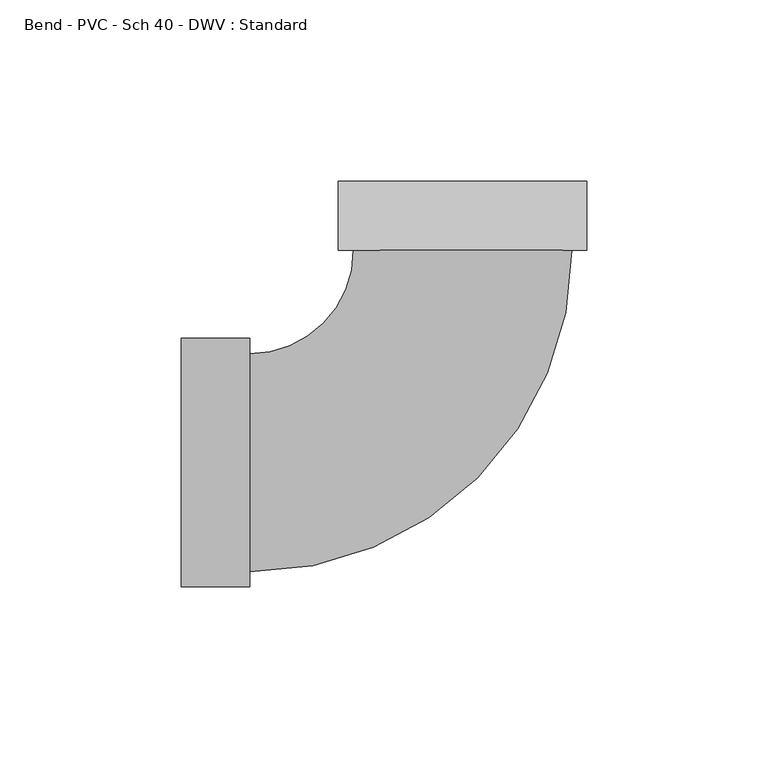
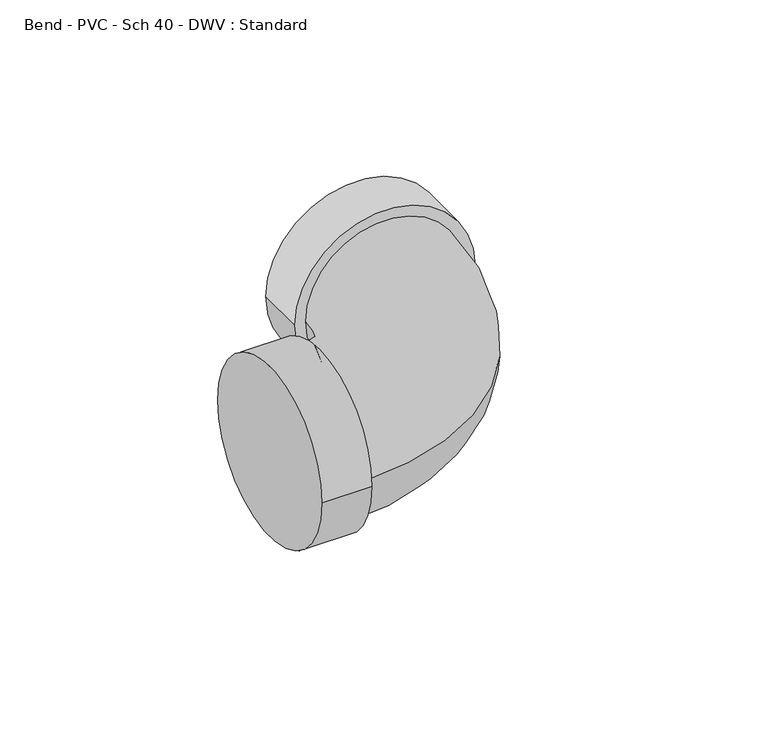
"""IFC4 building model written with IfcOpenShell, lengths in millimetres: pipe fitting geometry, Bend - PVC - Sch 40 - DWV : Standard."""

from ifc_helpers import new_model, si_unit, point, frame, origin, place, context, project, spatial, circle_curve, ellipse_curve, trimmed, source, transform, mapped, element, save
from ifc_brep_helpers import plane_surface, cylinder_surface, revolved_surface, advanced_brep


def bend_pvc_sch_40_dwv_standard_077d20b3(model_context):
    return source(origin(), model_context, "Body", "AdvancedBrep", [
        advanced_brep(
        [(-77.8002, -34.3154, 0.0), (-77.8002, 34.3154, 0.0), (-58.7502, -34.3154, 0.0), (-58.7502, 34.3154, 0.0), (-58.7502, -30.1625, 0.0), (-58.7502, 30.1625, 0.0), (-30.1632579, 58.7498109, 0.0), (30.1617421, 58.7505891, 0.0), (34.3146421, 58.7506427, 0.0), (-34.3161579, 58.7497573, 0.0), (34.3143964, 77.8006427, 0.0), (-34.3164036, 77.7997573, 0.0)],
        [
            (0, 1, circle_curve(frame((-77.8002, 0.0, 0.0), z_axis=(-1.0, 0.0, 0.0), x_axis=(0.0, 1.0, 0.0)), 34.3154)),
            (1, 0, circle_curve(frame((-77.8002, 0.0, 0.0), z_axis=(-1.0, 0.0, 0.0), x_axis=(0.0, 1.0, 0.0)), 34.3154)),
            (2, 3, circle_curve(frame((-58.7502, 0.0, 0.0), z_axis=(1.0, 0.0, 0.0), x_axis=(0.0, 1.0, 0.0)), 34.3154)),
            (3, 2, circle_curve(frame((-58.7502, 0.0, 0.0), z_axis=(1.0, 0.0, 0.0), x_axis=(0.0, 1.0, 0.0)), 34.3154)),
            (4, 5, circle_curve(frame((-58.7502, 0.0, 0.0), z_axis=(-1.0, 0.0, 0.0), x_axis=(0.0, 1.0, 0.0)), 30.1625)),
            (5, 4, circle_curve(frame((-58.7502, 0.0, 0.0), z_axis=(-1.0, 0.0, 0.0), x_axis=(0.0, 1.0, 0.0)), 30.1625)),
            (0, 2),
            (3, 1),
            (6, 5, circle_curve(frame((-58.7502, 58.7494421, 0.0), z_axis=(0.0, 0.0, -1.0), x_axis=(0.0, -1.0, 0.0)), 28.5869421)),
            (4, 7, circle_curve(frame((-58.7502, 58.7494421, 0.0), z_axis=(0.0, 0.0, 1.0), x_axis=(0.0, -1.0, 0.0)), 88.9119421)),
            (7, 6, circle_curve(frame((-0.0007579, 58.7502, 0.0), z_axis=(1.2899831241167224e-05, -0.9999999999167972, 0.0), x_axis=(-0.9999999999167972, -1.2899831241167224e-05, 0.0)), 30.1625)),
            (6, 7, circle_curve(frame((-0.0007579, 58.7502, 0.0), z_axis=(1.2899831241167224e-05, -0.9999999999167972, 0.0), x_axis=(-0.9999999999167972, -1.2899831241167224e-05, 0.0)), 30.1625)),
            (8, 9, circle_curve(frame((-0.0007579, 58.7502, 0.0), z_axis=(1.289983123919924e-05, -0.9999999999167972, 0.0), x_axis=(-0.9999999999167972, -1.289983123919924e-05, 0.0)), 34.3154)),
            (9, 8, circle_curve(frame((-0.0007579, 58.7502, 0.0), z_axis=(1.289983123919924e-05, -0.9999999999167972, 0.0), x_axis=(-0.9999999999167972, -1.289983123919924e-05, 0.0)), 34.3154)),
            (10, 11, circle_curve(frame((-0.0010036, 77.8002, 0.0), z_axis=(-1.289983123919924e-05, 0.9999999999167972, 0.0), x_axis=(-0.9999999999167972, -1.289983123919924e-05, 0.0)), 34.3154)),
            (11, 10, circle_curve(frame((-0.0010036, 77.8002, 0.0), z_axis=(-1.289983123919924e-05, 0.9999999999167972, 0.0), x_axis=(-0.9999999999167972, -1.289983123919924e-05, 0.0)), 34.3154)),
            (8, 10),
            (11, 9),
        ],
        [
            plane_surface(frame((-77.8002, 0.0, 0.0), z_axis=(-1.0, 0.0, 0.0), x_axis=(0.0, 0.0, 1.0))),
            plane_surface(frame((-58.7502, 0.0, 0.0), z_axis=(1.0, 0.0, 0.0), x_axis=(0.0, 0.0, 1.0))),
            cylinder_surface(frame((-77.8002, 0.0, 0.0), z_axis=(-1.0, 0.0, 0.0), x_axis=(0.0, 1.0, 0.0)), 34.3154),
            revolved_surface(trimmed(ellipse_curve(frame((-58.7502, 0.0, 0.0), z_axis=(-1.0, 0.0, 0.0), x_axis=(0.0, 1.0, 0.0)), 30.1625, 30.1625), [point((-58.7502, -30.1625, 0.0))], [point((-58.7502, 30.1625, 0.0))], True, "CARTESIAN"), (-58.7502, 58.7494421, 0.0), (0.0, 0.0, 1.0)),
            revolved_surface(trimmed(ellipse_curve(frame((-58.7502, 0.0, 0.0), z_axis=(-1.0, 0.0, 0.0), x_axis=(0.0, 1.0, 0.0)), 30.1625, 30.1625), [point((-58.7502, 30.1625, 0.0))], [point((-58.7502, -30.1625, 0.0))], True, "CARTESIAN"), (-58.7502, 58.7494421, 0.0), (0.0, 0.0, 1.0)),
            plane_surface(frame((-0.0007579, 58.7502, 0.0), z_axis=(1.289983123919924e-05, -0.9999999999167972, 0.0), x_axis=(0.0, 0.0, 1.0))),
            plane_surface(frame((-0.0010036, 77.8002, 0.0), z_axis=(-1.289983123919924e-05, 0.9999999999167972, 0.0), x_axis=(0.0, 0.0, 1.0))),
            cylinder_surface(frame((-0.0007579, 58.7502, 0.0), z_axis=(1.289983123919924e-05, -0.9999999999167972, 0.0), x_axis=(-0.9999999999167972, -1.289983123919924e-05, 0.0)), 34.3154),
        ],
        [
            (0, [[1, 2]]),
            (1, [[3, 4], [5, 6]]),
            (2, [[-1, 7, -4, 8]]),
            (2, [[-2, -8, -3, -7]]),
            (3, [[9, -5, 10, 11]]),
            (4, [[-9, 12, -10, -6]]),
            (5, [[13, 14], [-11, -12]]),
            (6, [[15, 16]]),
            (7, [[-13, 17, -16, 18]]),
            (7, [[-14, -18, -15, -17]]),
        ],
    ),
    ])


if __name__ == "__main__":
    model = new_model("IFC4")
    model_context = context("Model", 3, world=origin())
    ifc_project = project(units=[si_unit("LENGTHUNIT", "METRE", prefix="MILLI")], contexts=[model_context])
    site = spatial("IfcSite", under=ifc_project)
    building = spatial("IfcBuilding", under=site)
    placement = place(None, origin())
    bend_pvc_sch_40_dwv_standard_shape = bend_pvc_sch_40_dwv_standard_077d20b3(model_context)
    element("IfcPipeFitting", 1, ObjectType="Bend - PVC - Sch 40 - DWV : Standard", at=placement, inside=building, context=model_context, shape_type="MappedRepresentation", body=[
        mapped(bend_pvc_sch_40_dwv_standard_shape, transform((0.0, 0.0, 0.0), x_axis=(1.0, 0.0, 0.0), y_axis=(0.0, 1.0, 0.0), z_axis=(0.0, 0.0, 1.0))),
    ])
    save(model, "model.ifc")
